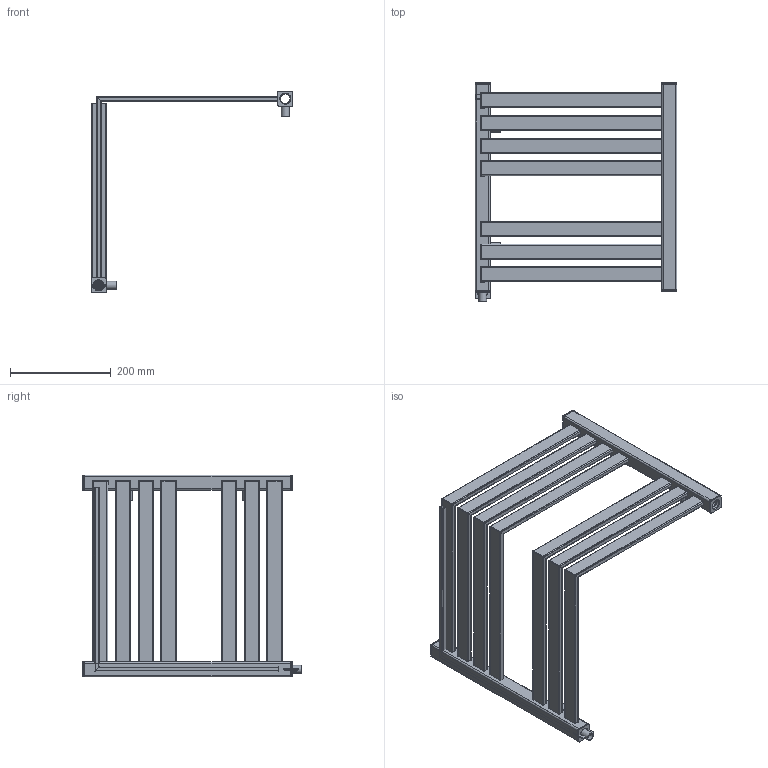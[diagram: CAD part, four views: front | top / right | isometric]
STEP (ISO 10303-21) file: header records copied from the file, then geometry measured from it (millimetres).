
FILE_DESCRIPTION( ( 'Unknown' ), '1' );
FILE_NAME( 'D:/Alplast sp. j/Witryna zespoBu - Projekty/Archiwum/Grzejniki Archiwum/Projekty/DESIGN PROGRAM/CORNER ALFA I BETA/CORNER ALFA 1.stp', 'Unknown', ( 'Unknown' ), ( 'Unknown' ), 'PSStep 10.1', 'Unknown', ' ' );
FILE_SCHEMA( ( 'AUTOMOTIVE_DESIGN { 1 0 10303 214 1 1 1 1 }' ) );
Length unit declared in the file: millimetre
Products named in the file (6): kana³ po giêciu; Assem1; kana³y 30x10 czêœæ do giêcia; AK1-N; mocowanie; zaslepka kwadrat otwor
Bounding box: 400 x 433 x 400 mm (x, y, z)
Volume: 787710.1 mm3; surface area: 1173803.5 mm2
Topology: 30 solids, 30 shells, 736 faces, 2015 edges, 1332 vertices
Faces by surface type: plane 405, cylinder 321, torus 10
Full cylindrical faces by diameter (mm): 14 x5, 16 x5, 18.631 x5, 23 x5
Entity records: 5184 total; most frequent: DIRECTION 741, CARTESIAN_POINT 725, ORIENTED_EDGE 670, EDGE_CURVE 335, AXIS2_PLACEMENT_3D 264, VERTEX_POINT 226, LINE 213, VECTOR 213
